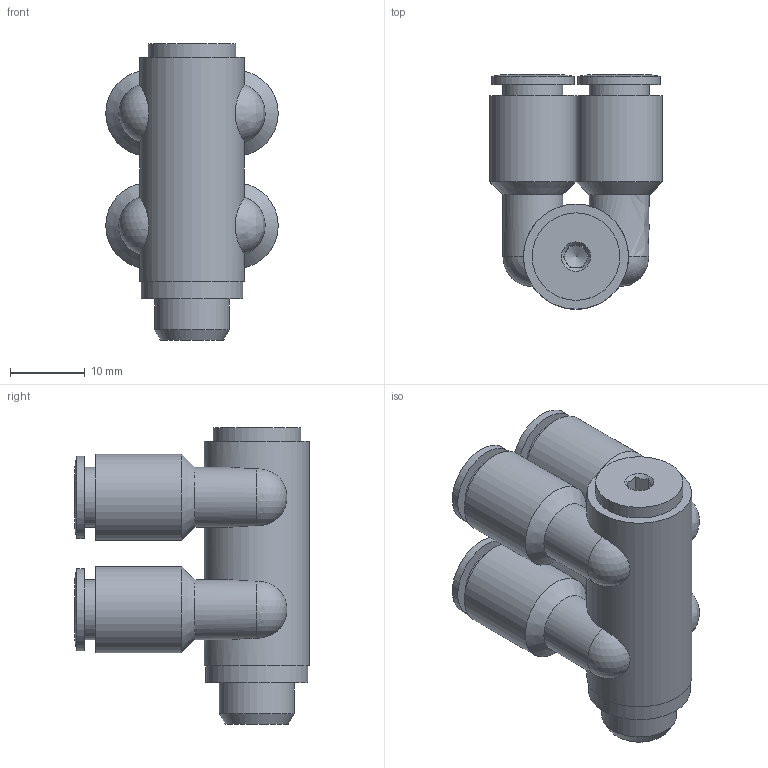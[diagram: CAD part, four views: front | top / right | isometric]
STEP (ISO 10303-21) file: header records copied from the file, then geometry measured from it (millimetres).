
FILE_DESCRIPTION((''),'2;1');
FILE_NAME('C:\Documents and Settings\rivolro1\Documenti\copia di Raccordi\PLASTICA\T33BXXXX\T33B0618.stp','2007-11-03T08:03:58',('Rivolro1'),(''),'Autodesk Inventor 2008','Autodesk Inventor 2008','');
FILE_SCHEMA(('AUTOMOTIVE_DESIGN { 1 0 10303 214 1 1 1 1 }'));
Length unit declared in the file: millimetre
Products named in the file (1): T33B0618
Bounding box: 23 x 31.3 x 39.5 mm (x, y, z)
Volume: 10270 mm3; surface area: 7072.7 mm2
Topology: 1 solids, 1 shells, 89 faces, 174 edges, 106 vertices
Faces by surface type: bspline 41, plane 23, cylinder 18, cone 5, sphere 2
Full cylindrical faces by diameter (mm): 4.2 x2, 8 x4, 10 x1, 11 x2, 11.5 x2, 11.667 x1, 13.6 x1, 14 x1
Entity records: 3006 total; most frequent: CARTESIAN_POINT 1459, DIRECTION 270, ORIENTED_EDGE 246, EDGE_LOOP 148, EDGE_CURVE 123, AXIS2_PLACEMENT_3D 122, VERTEX_POINT 91, FACE_OUTER_BOUND 89
